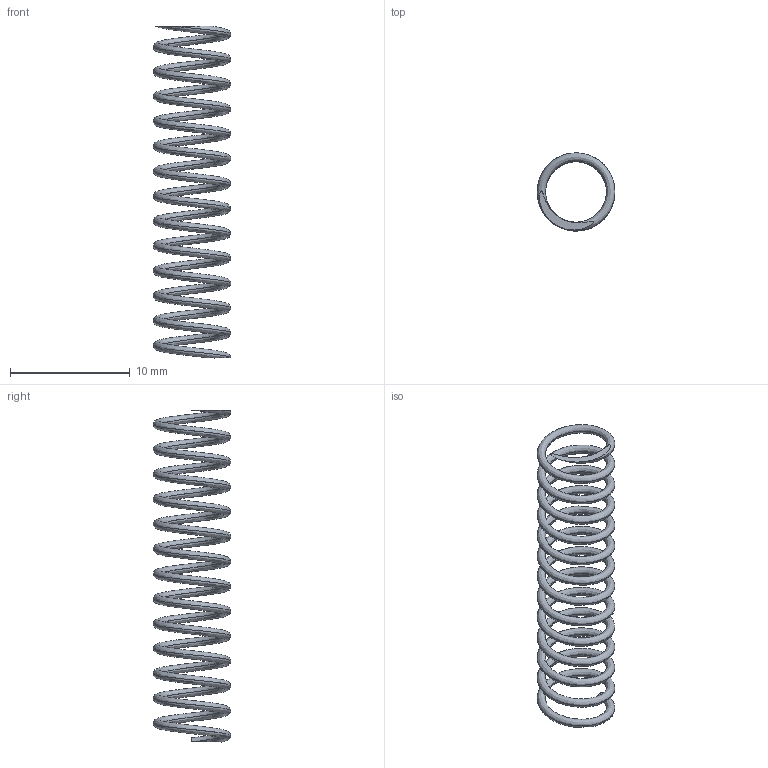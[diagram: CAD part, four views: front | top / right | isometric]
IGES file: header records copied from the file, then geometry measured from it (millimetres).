
Start section: SolidWorks IGES FILE using analytic representation for surfaces
Global section: file name: C:\Documents and Settings\lecoutey\Bureau\GR 2004\2003.230.00.IGS; native system: SolidWorks 2004 by SolidWorks Corporation; preprocessor: Version 5.3; author: lecoutey; date: 050405.100726; units: millimetre
Bounding box: 6.5 x 6.5 x 27.78 mm (x, y, z)
Surface area: 540.9 mm2 (no closed solid volume)
Topology: 0 solids, 0 shells, 5 faces, 129 edges, 129 vertices
Faces by surface type: bspline 5
